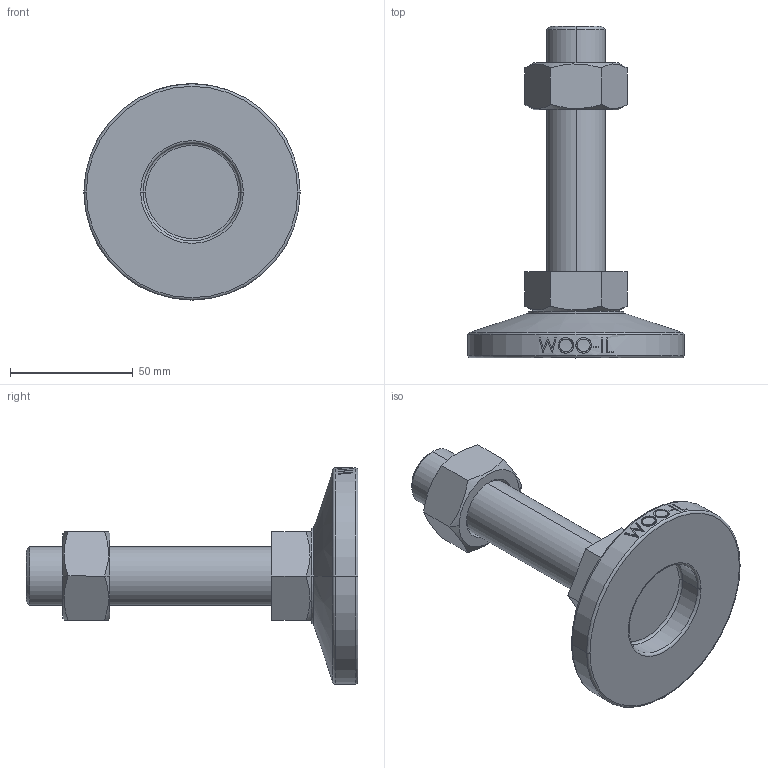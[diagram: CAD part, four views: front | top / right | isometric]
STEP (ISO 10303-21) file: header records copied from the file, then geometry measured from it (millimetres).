
FILE_DESCRIPTION (( 'STEP AP214' ), '1' );
FILE_NAME ('MFT88-M24-100.step', '2021-03-29T04:45:08', ( '' ), ( '' ), 'SwSTEP 2.0', 'SolidWorks 2019', '' );
FILE_SCHEMA (( 'AUTOMOTIVE_DESIGN' ));
Length unit declared in the file: millimetre
Products named in the file (2): MFT88-M24-100
Bounding box: 88 x 135 x 88 mm (x, y, z)
Volume: 151237.1 mm3; surface area: 32866.5 mm2
Topology: 3 solids, 3 shells, 106 faces, 243 edges, 154 vertices
Faces by surface type: plane 48, cylinder 18, bspline 16, cone 14, torus 10
Entity records: 4538 total; most frequent: CARTESIAN_POINT 2195, ORIENTED_EDGE 486, DIRECTION 439, EDGE_CURVE 243, AXIS2_PLACEMENT_3D 170, VERTEX_POINT 154, EDGE_LOOP 119, ADVANCED_FACE 106
